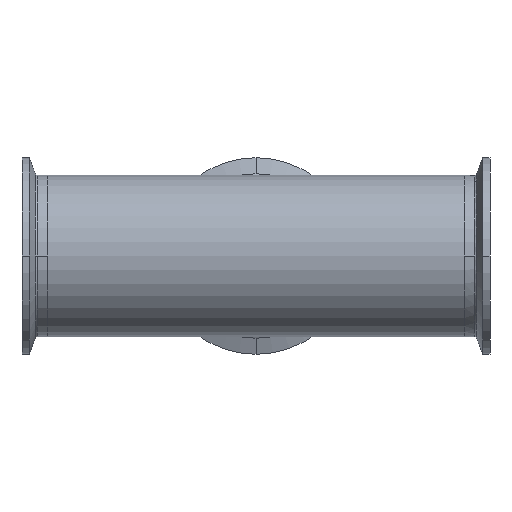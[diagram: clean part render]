
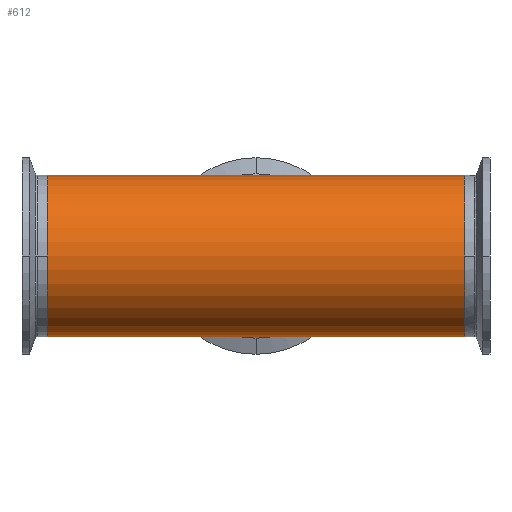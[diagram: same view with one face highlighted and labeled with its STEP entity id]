
A CAD part, front view. The second image highlights one B-rep face of the part: STEP entity #612.
In plain terms, the highlighted cylindrical face has radius 31.75 mm (diameter 63.5 mm), a partial arc.
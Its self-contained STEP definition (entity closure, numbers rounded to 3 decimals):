
#62 = VERTEX_POINT ( 'NONE', #4092 ) ;
#105 = DIRECTION ( 'NONE',  ( -1., 0., 0. ) ) ;
#179 = CARTESIAN_POINT ( 'NONE',  ( 171.903, 0., 0. ) ) ;
#207 = VECTOR ( 'NONE', #4282, 1000. ) ;
#228 = CARTESIAN_POINT ( 'NONE',  ( 82.1, 0., -31.75 ) ) ;
#291 = VERTEX_POINT ( 'NONE', #228 ) ;
#299 = DIRECTION ( 'NONE',  ( -1., 0., 0. ) ) ;
#539 = CARTESIAN_POINT ( 'NONE',  ( 171.903, 0., -31.75 ) ) ;
#612 = ADVANCED_FACE ( 'NONE', ( #3004 ), #866, .T. ) ;
#657 = VECTOR ( 'NONE', #1110, 1000. ) ;
#866 = CYLINDRICAL_SURFACE ( 'NONE', #4409, 31.75 ) ;
#1110 = DIRECTION ( 'NONE',  ( -1., 0., 0. ) ) ;
#1113 = LINE ( 'NONE', #1358, #3111 ) ;
#1197 = CIRCLE ( 'NONE', #3789, 31.75 ) ;
#1215 = LINE ( 'NONE', #539, #207 ) ;
#1248 = EDGE_CURVE ( 'NONE', #4025, #3036, #1113, .T. ) ;
#1253 = LINE ( 'NONE', #2575, #4198 ) ;
#1358 = CARTESIAN_POINT ( 'NONE',  ( 171.903, 0., 31.75 ) ) ;
#1466 = ORIENTED_EDGE ( 'NONE', *, *, #2043, .F. ) ;
#1511 = EDGE_CURVE ( 'NONE', #291, #4025, #1773, .T. ) ;
#1692 = VERTEX_POINT ( 'NONE', #3723 ) ;
#1738 = CARTESIAN_POINT ( 'NONE',  ( 82.1, 0., 0. ) ) ;
#1773 = CIRCLE ( 'NONE', #2396, 31.75 ) ;
#2026 = LINE ( 'NONE', #3728, #657 ) ;
#2043 = EDGE_CURVE ( 'NONE', #291, #62, #1215, .T. ) ;
#2055 = DIRECTION ( 'NONE',  ( -1., 0., 0. ) ) ;
#2071 = DIRECTION ( 'NONE',  ( 0., 0., 1. ) ) ;
#2079 = DIRECTION ( 'NONE',  ( 1., 0., 0. ) ) ;
#2320 = ORIENTED_EDGE ( 'NONE', *, *, #4067, .F. ) ;
#2396 = AXIS2_PLACEMENT_3D ( 'NONE', #1738, #2055, #2071 ) ;
#2491 = EDGE_LOOP ( 'NONE', ( #1466, #4633, #4516, #3325, #4681, #2320 ) ) ;
#2525 = DIRECTION ( 'NONE',  ( -1., 0., 0. ) ) ;
#2575 = CARTESIAN_POINT ( 'NONE',  ( 171.903, 0., 31.75 ) ) ;
#3004 = FACE_OUTER_BOUND ( 'NONE', #2491, .T. ) ;
#3036 = VERTEX_POINT ( 'NONE', #3126 ) ;
#3111 = VECTOR ( 'NONE', #2525, 1000. ) ;
#3126 = CARTESIAN_POINT ( 'NONE',  ( 0., 0., 31.75 ) ) ;
#3325 = ORIENTED_EDGE ( 'NONE', *, *, #3929, .T. ) ;
#3421 = VERTEX_POINT ( 'NONE', #3616 ) ;
#3616 = CARTESIAN_POINT ( 'NONE',  ( -82.1, 0., 31.75 ) ) ;
#3713 = CARTESIAN_POINT ( 'NONE',  ( 82.1, 0., 31.75 ) ) ;
#3723 = CARTESIAN_POINT ( 'NONE',  ( -82.1, 0., -31.75 ) ) ;
#3728 = CARTESIAN_POINT ( 'NONE',  ( 171.903, 0., -31.75 ) ) ;
#3789 = AXIS2_PLACEMENT_3D ( 'NONE', #4271, #2079, #4647 ) ;
#3929 = EDGE_CURVE ( 'NONE', #3036, #3421, #1253, .T. ) ;
#4025 = VERTEX_POINT ( 'NONE', #3713 ) ;
#4067 = EDGE_CURVE ( 'NONE', #62, #1692, #2026, .T. ) ;
#4092 = CARTESIAN_POINT ( 'NONE',  ( 0., 0., -31.75 ) ) ;
#4198 = VECTOR ( 'NONE', #299, 1000. ) ;
#4271 = CARTESIAN_POINT ( 'NONE',  ( -82.1, 0., 0. ) ) ;
#4282 = DIRECTION ( 'NONE',  ( -1., 0., 0. ) ) ;
#4409 = AXIS2_PLACEMENT_3D ( 'NONE', #179, #105, #4538 ) ;
#4516 = ORIENTED_EDGE ( 'NONE', *, *, #1248, .T. ) ;
#4538 = DIRECTION ( 'NONE',  ( 0., 0., 1. ) ) ;
#4550 = EDGE_CURVE ( 'NONE', #3421, #1692, #1197, .T. ) ;
#4633 = ORIENTED_EDGE ( 'NONE', *, *, #1511, .T. ) ;
#4647 = DIRECTION ( 'NONE',  ( 0., 0., 1. ) ) ;
#4681 = ORIENTED_EDGE ( 'NONE', *, *, #4550, .T. ) ;
